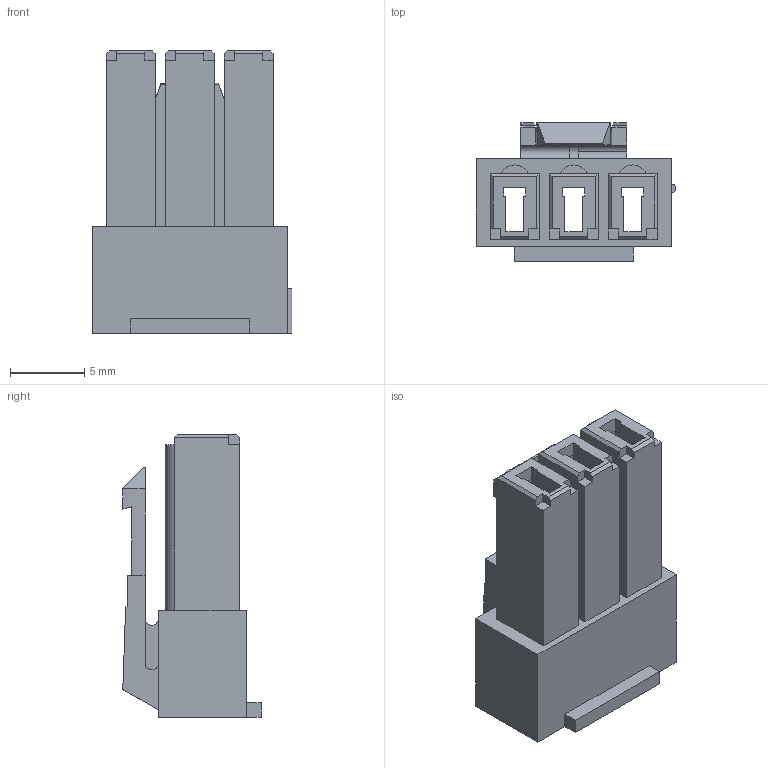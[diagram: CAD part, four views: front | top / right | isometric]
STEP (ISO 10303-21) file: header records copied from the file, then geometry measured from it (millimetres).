
FILE_DESCRIPTION (( 'STEP AP214' ), '1' );
FILE_NAME ('HC-SLP-3Y-05 (3.96 等齬謂釱-HCTL).STEP', '2025-05-24T09:50:54', ( '' ), ( '' ), 'SwSTEP 2.0', 'SolidWorks 2022', '' );
FILE_SCHEMA (( 'AUTOMOTIVE_DESIGN' ));
Length unit declared in the file: millimetre
Products named in the file (1): HC-SLP-3Y-05 (3.96 等齬謂釱-HCTL)
Bounding box: 13.42 x 9.3 x 19 mm (x, y, z)
Volume: 689.4 mm3; surface area: 1915.9 mm2
Topology: 1 solids, 1 shells, 143 faces, 392 edges, 258 vertices
Faces by surface type: plane 134, cylinder 9
Entity records: 4488 total; most frequent: CARTESIAN_POINT 800, ORIENTED_EDGE 784, DIRECTION 694, EDGE_CURVE 392, LINE 374, VECTOR 374, VERTEX_POINT 258, AXIS2_PLACEMENT_3D 160
